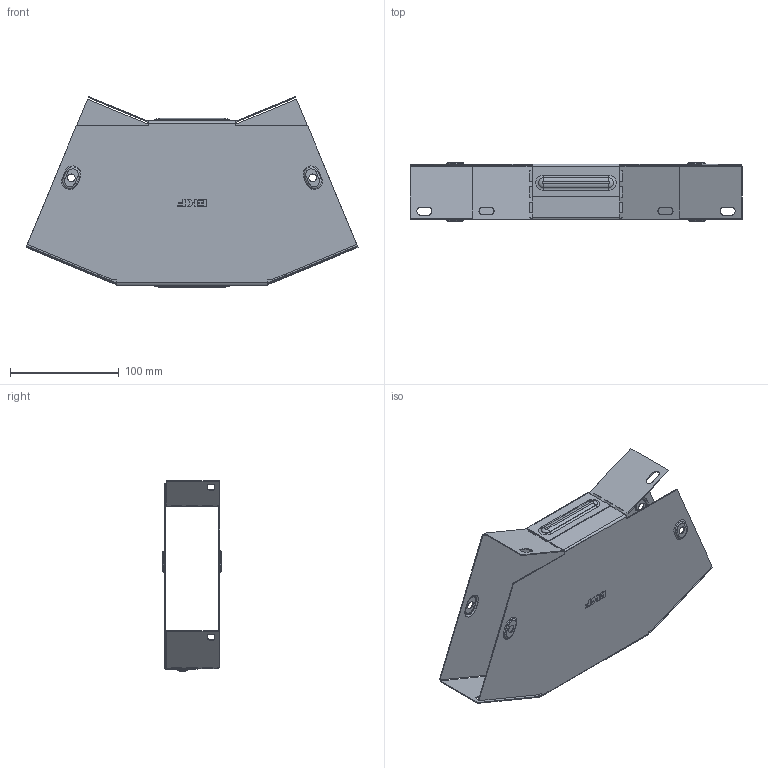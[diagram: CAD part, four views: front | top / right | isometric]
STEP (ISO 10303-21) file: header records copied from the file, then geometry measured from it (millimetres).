
FILE_DESCRIPTION (( 'STEP AP214' ), '1' );
FILE_NAME ('g4550150_捘.STEP', '2019-06-10T08:35:55', ( '砐錪賧瘔蠈錪 Windows' ), ( '' ), 'SwSTEP 2.0', 'SolidWorks 2018', '' );
FILE_SCHEMA (( 'AUTOMOTIVE_DESIGN' ));
Length unit declared in the file: millimetre
Products named in the file (1): g4550150_捘
Bounding box: 305.14 x 53.8 x 175.42 mm (x, y, z)
Volume: 84389.5 mm3; surface area: 213422.5 mm2
Topology: 2 solids, 2 shells, 492 faces, 1328 edges, 844 vertices
Faces by surface type: plane 274, cylinder 136, torus 64, bspline 18
Entity records: 16324 total; most frequent: CARTESIAN_POINT 3684, ORIENTED_EDGE 2656, DIRECTION 2610, EDGE_CURVE 1328, LINE 924, VECTOR 924, VERTEX_POINT 844, AXIS2_PLACEMENT_3D 843
